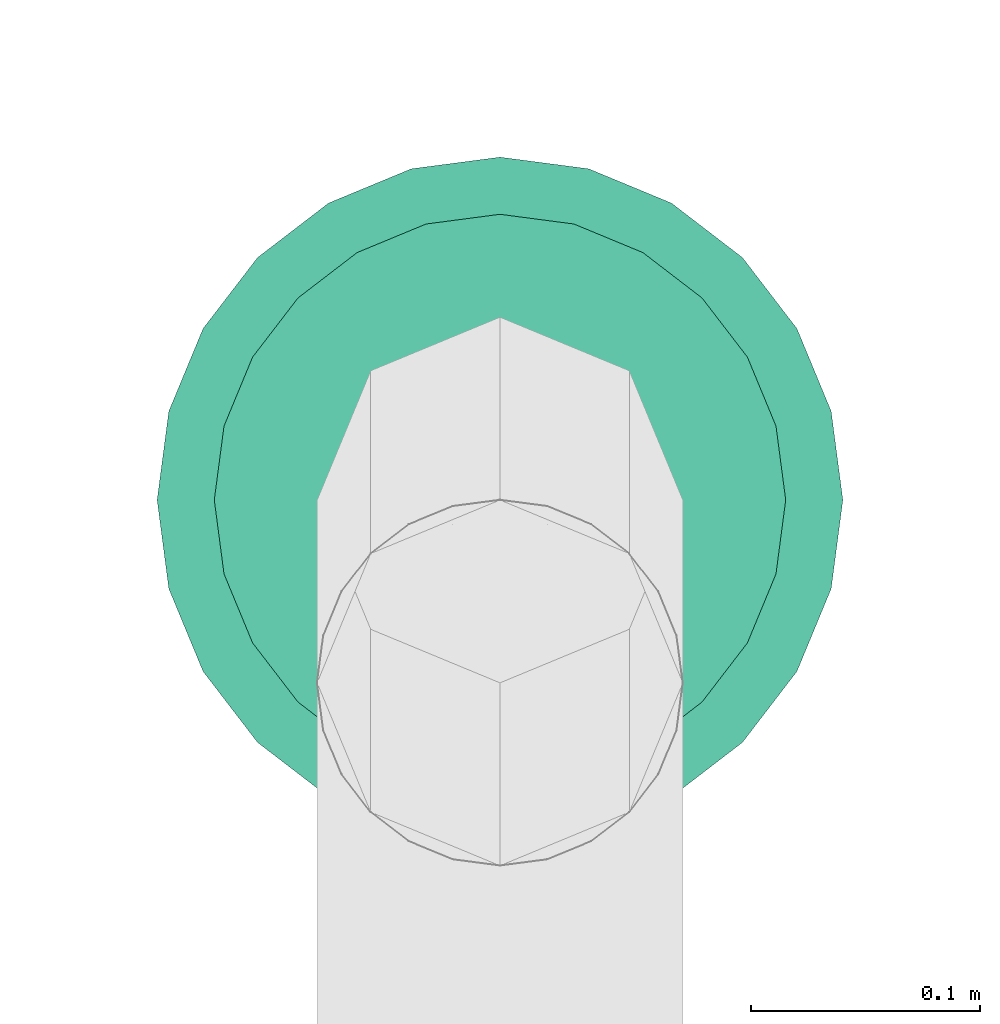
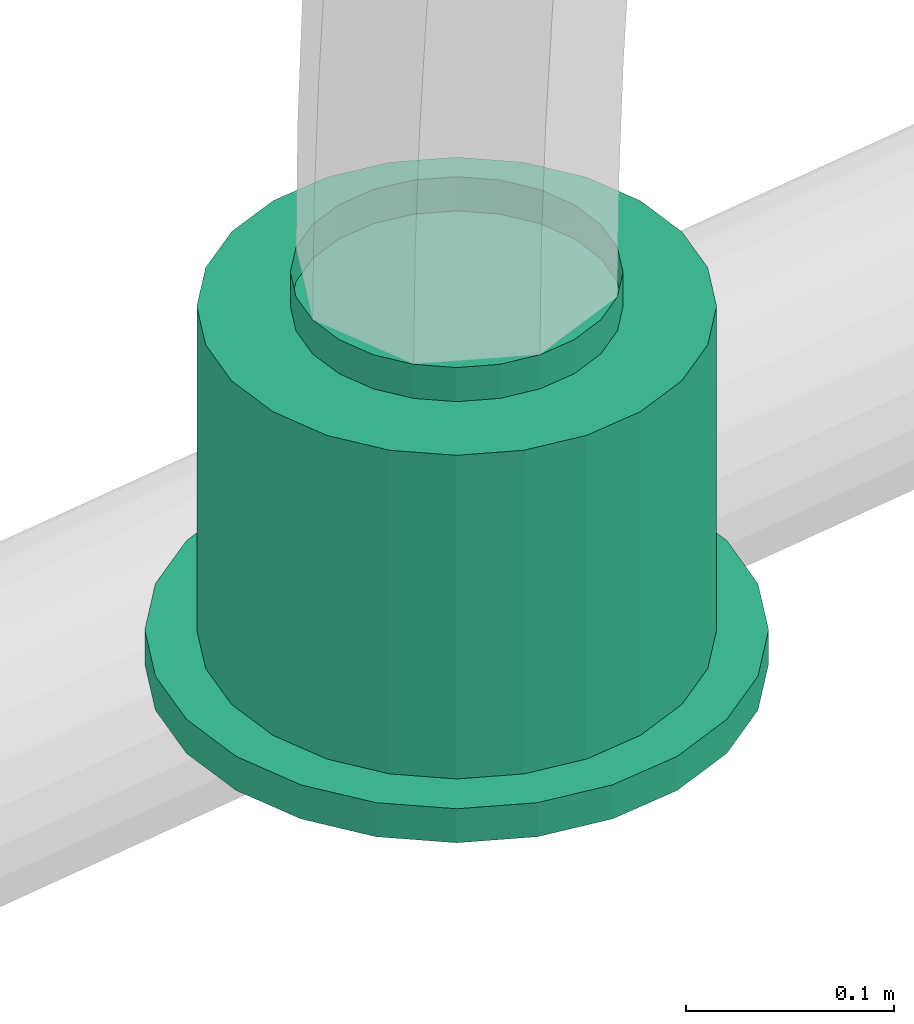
# One storey, part 189 of 374: 1 flow terminal.
"""IFC2X3 building model written with IfcOpenShell, lengths in metres."""

from ifc_helpers import new_model, si_unit, direction, origin, place, context, subcontext, project, spatial, open_shell, surface_model, source, transform, mapped, element, save


model = new_model("IFC2X3")

# Units and contexts
model_context = context("Model", 3, precision=1e-05, world=origin(), true_north=direction((-0.4480736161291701, 0.8939966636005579)))
body_context = subcontext(model_context, "Body", "Model", "MODEL_VIEW")
ifc_project = project(units=[si_unit("LENGTHUNIT", "METRE"), si_unit("AREAUNIT", "SQUARE_METRE"), si_unit("VOLUMEUNIT", "CUBIC_METRE"), si_unit("PLANEANGLEUNIT", "RADIAN"), si_unit("THERMODYNAMICTEMPERATUREUNIT", "KELVIN"), si_unit("MASSUNIT", "GRAM", prefix="KILO"), si_unit("TIMEUNIT", "SECOND")], contexts=[model_context])

# Site, building, storey
site_placement = place(None, origin())
site = spatial("IfcSite", under=ifc_project, at=site_placement, Name="Site 1", CompositionType="ELEMENT")
building_placement = place(site_placement, origin())
building = spatial("IfcBuilding", under=site, at=building_placement, Name="Undefined", CompositionType="ELEMENT")
storey_placement = place(building_placement, origin())
storey = spatial("IfcBuildingStorey", under=building, at=storey_placement, Name="Rez de chauss\x8ee", CompositionType="ELEMENT", Elevation=0.0)

# Flow terminal
shared_shape = source(origin(), body_context, "Body", "SurfaceModel", [
    surface_model("IfcFaceBasedSurfaceModel", [(0.0, 0.0, 0.0), (0.03915785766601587, 0.0, 0.0), (0.03915785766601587, 0.020000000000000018, 0.0), (3.552713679e-15, 0.020000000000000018, 0.0), (0.07698144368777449, 0.0, -0.010134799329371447), (0.07698144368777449, 0.020000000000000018, -0.010134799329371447), (0.11089314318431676, 0.0, -0.02971372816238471), (0.11089314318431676, 0.020000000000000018, -0.02971372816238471), (0.13858192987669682, 0.0, -0.05740251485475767), (0.13858192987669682, 0.020000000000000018, -0.05740251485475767), (0.15816085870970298, 0.0, -0.09131421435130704), (0.15816085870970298, 0.020000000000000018, -0.09131421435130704), (0.16829565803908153, 0.0, -0.12913780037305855), (0.16829565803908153, 0.020000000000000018, -0.12913780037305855), (0.16829565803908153, 0.0, -0.16829565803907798), (0.16829565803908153, 0.020000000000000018, -0.16829565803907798), (0.15816085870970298, 0.0, -0.20611924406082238), (0.15816085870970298, 0.020000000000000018, -0.20611924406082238), (0.13858192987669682, 0.0, -0.24003094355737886), (0.13858192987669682, 0.020000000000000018, -0.24003094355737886), (0.11089314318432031, 0.0, -0.2677197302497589), (0.11089314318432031, 0.020000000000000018, -0.2677197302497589), (0.07698144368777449, 0.0, -0.2872986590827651), (0.07698144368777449, 0.020000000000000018, -0.2872986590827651), (0.039157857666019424, 0.0, -0.29743345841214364), (0.039157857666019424, 0.020000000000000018, -0.29743345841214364), (3.552713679e-15, 0.0, -0.29743345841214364), (3.552713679e-15, 0.020000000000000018, -0.29743345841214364), (-0.03782358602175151, 0.0, -0.2872986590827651), (-0.03782358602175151, 0.020000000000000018, -0.2872986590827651), (-0.07173528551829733, 0.0, -0.2677197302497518), (-0.07173528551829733, 0.020000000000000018, -0.2677197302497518), (-0.0994240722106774, 0.0, -0.24003094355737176), (-0.0994240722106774, 0.020000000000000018, -0.24003094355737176), (-0.11900300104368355, 0.0, -0.2061192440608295), (-0.11900300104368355, 0.020000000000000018, -0.2061192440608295), (-0.1291378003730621, 0.0, -0.16829565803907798), (-0.1291378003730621, 0.020000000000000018, -0.16829565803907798), (-0.1291378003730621, 0.0, -0.12913780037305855), (-0.1291378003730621, 0.020000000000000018, -0.12913780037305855), (-0.11900300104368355, 0.0, -0.09131421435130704), (-0.11900300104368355, 0.020000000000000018, -0.09131421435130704), (-0.0994240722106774, 0.0, -0.05740251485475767), (-0.0994240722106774, 0.020000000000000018, -0.05740251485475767), (-0.07173528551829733, 0.0, -0.029713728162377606), (-0.07173528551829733, 0.020000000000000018, -0.029713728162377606), (-0.03782358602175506, 0.0, -0.010134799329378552), (-0.03782358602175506, 0.020000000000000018, -0.010134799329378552), (0.019578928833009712, 0.0, -0.14871672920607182), (0.019578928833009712, 0.020000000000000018, -0.14871672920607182), (0.003263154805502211, 0.020000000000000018, -0.02478612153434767), (0.035894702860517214, 0.020000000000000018, -0.02478612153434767), (0.035894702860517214, 0.20999999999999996, -0.02478612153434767), (0.003263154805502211, 0.20999999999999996, -0.02478612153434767), (0.06741435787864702, 0.020000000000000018, -0.033231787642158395), (0.06741435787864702, 0.20999999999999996, -0.033231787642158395), (0.0956741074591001, 0.020000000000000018, -0.04954756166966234), (0.0956741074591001, 0.20999999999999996, -0.04954756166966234), (0.11874809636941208, 0.020000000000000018, -0.07262155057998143), (0.11874809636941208, 0.20999999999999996, -0.07262155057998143), (0.13506387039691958, 0.020000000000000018, -0.10088130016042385), (0.13506387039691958, 0.20999999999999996, -0.10088130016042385), (0.1435095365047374, 0.020000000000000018, -0.13240095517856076), (0.1435095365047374, 0.20999999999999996, -0.13240095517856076), (0.1435095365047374, 0.020000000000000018, -0.16503250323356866), (0.1435095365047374, 0.20999999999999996, -0.16503250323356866), (0.13506387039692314, 0.020000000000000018, -0.19655215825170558), (0.13506387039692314, 0.20999999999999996, -0.19655215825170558), (0.11874809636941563, 0.020000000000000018, -0.2248119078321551), (0.11874809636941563, 0.20999999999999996, -0.2248119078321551), (0.09567410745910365, 0.020000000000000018, -0.24788589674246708), (0.09567410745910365, 0.20999999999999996, -0.24788589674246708), (0.06741435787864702, 0.020000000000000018, -0.26420167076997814), (0.06741435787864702, 0.20999999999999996, -0.26420167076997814), (0.035894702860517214, 0.020000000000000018, -0.27264733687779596), (0.035894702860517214, 0.20999999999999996, -0.27264733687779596), (0.0032631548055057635, 0.020000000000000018, -0.27264733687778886), (0.0032631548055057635, 0.20999999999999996, -0.27264733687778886), (-0.028256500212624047, 0.020000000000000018, -0.26420167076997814), (-0.028256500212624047, 0.20999999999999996, -0.26420167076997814), (-0.05651624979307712, 0.020000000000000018, -0.2478858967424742), (-0.05651624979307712, 0.20999999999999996, -0.2478858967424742), (-0.07959023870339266, 0.020000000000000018, -0.2248119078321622), (-0.07959023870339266, 0.20999999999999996, -0.2248119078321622), (-0.09590601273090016, 0.020000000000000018, -0.19655215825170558), (-0.09590601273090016, 0.20999999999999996, -0.19655215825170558), (-0.10435167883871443, 0.020000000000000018, -0.16503250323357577), (-0.10435167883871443, 0.20999999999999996, -0.16503250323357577), (-0.10435167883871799, 0.020000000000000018, -0.13240095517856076), (-0.10435167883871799, 0.20999999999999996, -0.13240095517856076), (-0.09590601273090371, 0.020000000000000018, -0.10088130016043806), (-0.09590601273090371, 0.20999999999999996, -0.10088130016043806), (-0.07959023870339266, 0.020000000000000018, -0.07262155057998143), (-0.07959023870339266, 0.20999999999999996, -0.07262155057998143), (-0.056516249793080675, 0.020000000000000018, -0.04954756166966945), (-0.056516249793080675, 0.20999999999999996, -0.04954756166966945), (-0.028256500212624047, 0.020000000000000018, -0.033231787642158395), (-0.028256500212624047, 0.20999999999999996, -0.033231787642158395), (0.019578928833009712, 0.20999999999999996, -0.14871672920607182), (0.009136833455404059, 0.20999999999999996, -0.06940114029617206), (0.030021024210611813, 0.20999999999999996, -0.06940114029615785), (0.030021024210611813, 0.22999999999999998, -0.06940114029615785), (0.009136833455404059, 0.22999999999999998, -0.06940114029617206), (0.05019360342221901, 0.20999999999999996, -0.07480636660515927), (0.05019360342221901, 0.22999999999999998, -0.07480636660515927), (0.06827984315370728, 0.20999999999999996, -0.08524846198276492), (0.06827984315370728, 0.22999999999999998, -0.08524846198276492), (0.0830471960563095, 0.20999999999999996, -0.10001581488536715), (0.0830471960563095, 0.22999999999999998, -0.10001581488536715), (0.0934892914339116, 0.20999999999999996, -0.11810205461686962), (0.0934892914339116, 0.22999999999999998, -0.11810205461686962), (0.09889451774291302, 0.20999999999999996, -0.13827463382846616), (0.09889451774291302, 0.22999999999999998, -0.13827463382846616), (0.09889451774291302, 0.20999999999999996, -0.15915882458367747), (0.09889451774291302, 0.22999999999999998, -0.15915882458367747), (0.09348929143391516, 0.20999999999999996, -0.179331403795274), (0.09348929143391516, 0.22999999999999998, -0.179331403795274), (0.0830471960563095, 0.20999999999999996, -0.19741764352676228), (0.0830471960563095, 0.22999999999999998, -0.19741764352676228), (0.06827984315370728, 0.20999999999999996, -0.2121849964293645), (0.06827984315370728, 0.22999999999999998, -0.2121849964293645), (0.05019360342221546, 0.20999999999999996, -0.22262709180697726), (0.05019360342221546, 0.22999999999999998, -0.22262709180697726), (0.030021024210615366, 0.20999999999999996, -0.22803231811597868), (0.030021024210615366, 0.22999999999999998, -0.22803231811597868), (0.009136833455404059, 0.20999999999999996, -0.22803231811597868), (0.009136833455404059, 0.22999999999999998, -0.22803231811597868), (-0.011035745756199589, 0.20999999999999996, -0.22262709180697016), (-0.011035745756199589, 0.22999999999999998, -0.22262709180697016), (-0.0291219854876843, 0.20999999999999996, -0.2121849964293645), (-0.0291219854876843, 0.22999999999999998, -0.2121849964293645), (-0.043889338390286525, 0.20999999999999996, -0.19741764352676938), (-0.043889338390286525, 0.22999999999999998, -0.19741764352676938), (-0.05433143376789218, 0.20999999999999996, -0.17933140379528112), (-0.05433143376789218, 0.22999999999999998, -0.17933140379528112), (-0.05973666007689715, 0.20999999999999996, -0.15915882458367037), (-0.05973666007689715, 0.22999999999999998, -0.15915882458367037), (-0.0597366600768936, 0.20999999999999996, -0.13827463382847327), (-0.0597366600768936, 0.22999999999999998, -0.13827463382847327), (-0.05433143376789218, 0.20999999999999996, -0.11810205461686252), (-0.05433143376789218, 0.22999999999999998, -0.11810205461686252), (-0.043889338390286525, 0.20999999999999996, -0.10001581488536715), (-0.043889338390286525, 0.22999999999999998, -0.10001581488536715), (-0.02912198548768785, 0.20999999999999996, -0.08524846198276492), (-0.02912198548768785, 0.22999999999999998, -0.08524846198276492), (-0.011035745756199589, 0.20999999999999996, -0.07480636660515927), (-0.011035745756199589, 0.22999999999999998, -0.07480636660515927)], [open_shell([[[0, 1, 2, 3]], [[1, 4, 5, 2]], [[4, 6, 7, 5]], [[6, 8, 9, 7]], [[8, 10, 11, 9]], [[10, 12, 13, 11]], [[12, 14, 15, 13]], [[14, 16, 17, 15]], [[16, 18, 19, 17]], [[18, 20, 21, 19]], [[20, 22, 23, 21]], [[22, 24, 25, 23]], [[24, 26, 27, 25]], [[26, 28, 29, 27]], [[28, 30, 31, 29]], [[30, 32, 33, 31]], [[32, 34, 35, 33]], [[34, 36, 37, 35]], [[36, 38, 39, 37]], [[38, 40, 41, 39]], [[40, 42, 43, 41]], [[42, 44, 45, 43]], [[44, 46, 47, 45]], [[46, 0, 3, 47]], [[48, 1, 0]], [[48, 4, 1]], [[48, 6, 4]], [[48, 8, 6]], [[48, 10, 8]], [[48, 12, 10]], [[48, 14, 12]], [[48, 16, 14]], [[48, 18, 16]], [[48, 20, 18]], [[48, 22, 20]], [[48, 24, 22]], [[48, 26, 24]], [[48, 28, 26]], [[48, 30, 28]], [[48, 32, 30]], [[48, 34, 32]], [[48, 36, 34]], [[48, 38, 36]], [[48, 40, 38]], [[48, 42, 40]], [[48, 44, 42]], [[48, 46, 44]], [[48, 0, 46]], [[49, 47, 3]], [[49, 45, 47]], [[49, 43, 45]], [[49, 41, 43]], [[49, 39, 41]], [[49, 37, 39]], [[49, 35, 37]], [[49, 33, 35]], [[49, 31, 33]], [[49, 29, 31]], [[49, 27, 29]], [[49, 25, 27]], [[49, 23, 25]], [[49, 21, 23]], [[49, 19, 21]], [[49, 17, 19]], [[49, 15, 17]], [[49, 13, 15]], [[49, 11, 13]], [[49, 9, 11]], [[49, 7, 9]], [[49, 5, 7]], [[49, 2, 5]], [[49, 3, 2]], [[50, 51, 52, 53]], [[51, 54, 55, 52]], [[54, 56, 57, 55]], [[56, 58, 59, 57]], [[58, 60, 61, 59]], [[60, 62, 63, 61]], [[62, 64, 65, 63]], [[64, 66, 67, 65]], [[66, 68, 69, 67]], [[68, 70, 71, 69]], [[70, 72, 73, 71]], [[72, 74, 75, 73]], [[74, 76, 77, 75]], [[76, 78, 79, 77]], [[78, 80, 81, 79]], [[80, 82, 83, 81]], [[82, 84, 85, 83]], [[84, 86, 87, 85]], [[86, 88, 89, 87]], [[88, 90, 91, 89]], [[90, 92, 93, 91]], [[92, 94, 95, 93]], [[94, 96, 97, 95]], [[96, 50, 53, 97]], [[49, 51, 50]], [[49, 54, 51]], [[49, 56, 54]], [[49, 58, 56]], [[49, 60, 58]], [[49, 62, 60]], [[49, 64, 62]], [[49, 66, 64]], [[49, 68, 66]], [[49, 70, 68]], [[49, 72, 70]], [[49, 74, 72]], [[49, 76, 74]], [[49, 78, 76]], [[49, 80, 78]], [[49, 82, 80]], [[49, 84, 82]], [[49, 86, 84]], [[49, 88, 86]], [[49, 90, 88]], [[49, 92, 90]], [[49, 94, 92]], [[49, 96, 94]], [[49, 50, 96]], [[98, 97, 53]], [[98, 95, 97]], [[98, 93, 95]], [[98, 91, 93]], [[98, 89, 91]], [[98, 87, 89]], [[98, 85, 87]], [[98, 83, 85]], [[98, 81, 83]], [[98, 79, 81]], [[98, 77, 79]], [[98, 75, 77]], [[98, 73, 75]], [[98, 71, 73]], [[98, 69, 71]], [[98, 67, 69]], [[98, 65, 67]], [[98, 63, 65]], [[98, 61, 63]], [[98, 59, 61]], [[98, 57, 59]], [[98, 55, 57]], [[98, 52, 55]], [[98, 53, 52]], [[99, 100, 101, 102]], [[100, 103, 104, 101]], [[103, 105, 106, 104]], [[105, 107, 108, 106]], [[107, 109, 110, 108]], [[109, 111, 112, 110]], [[111, 113, 114, 112]], [[113, 115, 116, 114]], [[115, 117, 118, 116]], [[117, 119, 120, 118]], [[119, 121, 122, 120]], [[121, 123, 124, 122]], [[123, 125, 126, 124]], [[125, 127, 128, 126]], [[127, 129, 130, 128]], [[129, 131, 132, 130]], [[131, 133, 134, 132]], [[133, 135, 136, 134]], [[135, 137, 138, 136]], [[137, 139, 140, 138]], [[139, 141, 142, 140]], [[141, 143, 144, 142]], [[143, 145, 146, 144]], [[145, 99, 102, 146]]])]),
])
flow_terminal_placement = place(storey_placement, origin())
element("IfcFlowTerminal", 1, at=flow_terminal_placement, inside=storey, Name="Air diffuseur - bouche", ObjectType="Air diffuseur - bouche", context=body_context, shape_type="MappedRepresentation", body=[
    mapped(shared_shape, transform((61.3261433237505, 24.283270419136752, 2.38), x_axis=(0.9914448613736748, 0.13052619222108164, 0.0), y_axis=(0.0, 0.0, 1.0), z_axis=(0.13052619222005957, -0.9914448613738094, 0.0))),
])

save(model, "model.ifc")
